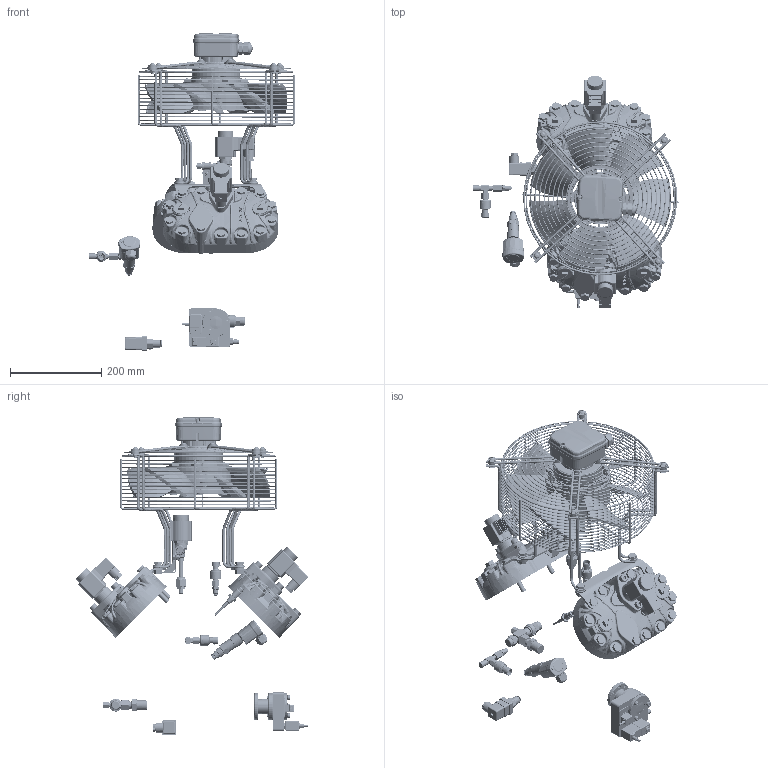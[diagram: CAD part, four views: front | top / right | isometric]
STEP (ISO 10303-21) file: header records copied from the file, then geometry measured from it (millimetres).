
FILE_DESCRIPTION(/* description */ (''),/* implementation_level */ '2;1');
FILE_NAME(/* name */ 'BE5 Option.stp',/* time_stamp */ '2024-06-26T16:25:43+02:00',/* author */ (''),/* organization */ (''),/* preprocessor_version */ 'ST-DEVELOPER v19.4',/* originating_system */ 'SIEMENS PLM Software NX2212.8901',/* authorisation */ '');
FILE_SCHEMA (('AUTOMOTIVE_DESIGN { 1 0 10303 214 3 1 1 1 }'));
Products named in the file (10): 200695315ugm001_00; 200419917ugm001_00; 200047439ugm001_00; 200637737ugm001_00; 200080885ugm001_00; 200632276ugm001_00; 200072461ugm001_00; 200065832ugm001_00; 200085732ugm001_00; 200047781ugm001_10
Assembly tree (11 placements, depth 2):
  200047781ugm001_10
    200085732ugm001_00
    200065832ugm001_00  x2
    200072461ugm001_00
    200632276ugm001_00
    200080885ugm001_00
    200637737ugm001_00
    200047439ugm001_00  x2
    200419917ugm001_00
    200695315ugm001_00
Bounding box: 449.67 x 509.05 x 695.39 mm (x, y, z)
Volume: 10410312.7 mm3; surface area: 1357889.5 mm2
Topology: 13 solids, 37 shells, 12258 faces, 31255 edges, 18329 vertices
Faces by surface type: bspline 3934, plane 3006, cylinder 2187, cone 1129, torus 1101, extrusion 476, sphere 425
Full cylindrical faces by diameter (mm): 1 x4, 2.5 x1, 3.2 x1, 4 x2, 4.9 x1, 5 x2, 5.795 x1, 6 x5, 6.6 x1, 6.8 x1, 6.9 x3, 7 x4, 7.5 x1, 7.9 x2, 8 x5, 8.4 x1, 8.782 x4, 8.9 x2, 9 x3, 9.5 x4, 9.8 x1, 10 x13, 10.2 x1, 10.287 x2, 10.29 x1, 10.4 x1, 10.5 x4, 10.72 x1, 10.907 x2, 11 x13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
Entity records: 404063 total; most frequent: CARTESIAN_POINT 213240, ORIENTED_EDGE 41384, DIRECTION 31446, EDGE_CURVE 20692, VERTEX_POINT 12742, AXIS2_PLACEMENT_3D 12684, EDGE_LOOP 9407, ADVANCED_FACE 8280
